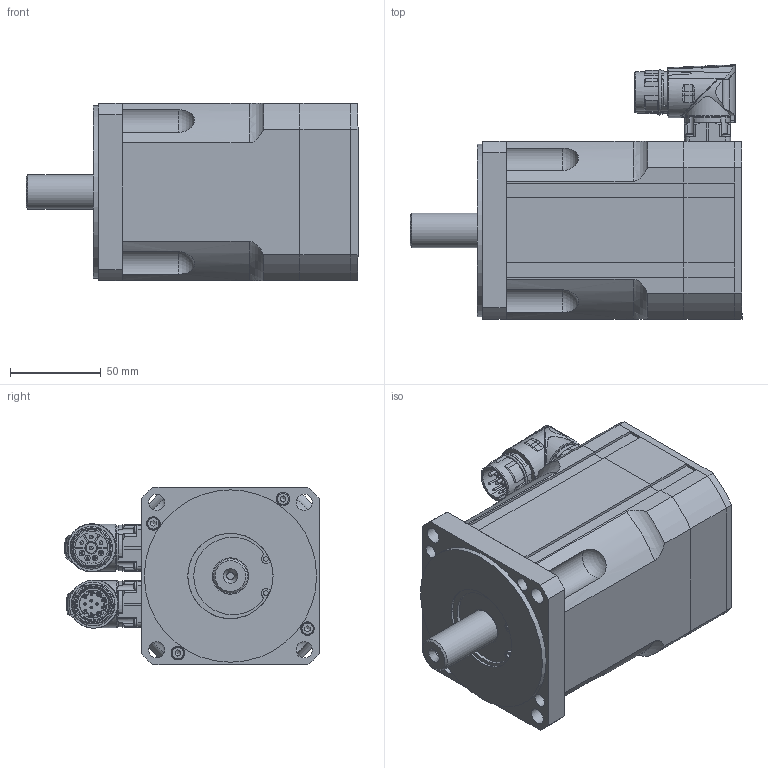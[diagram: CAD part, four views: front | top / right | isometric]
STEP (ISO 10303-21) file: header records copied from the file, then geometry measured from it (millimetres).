
FILE_DESCRIPTION(/* description */ (''),/* implementation_level */ '2;1');
FILE_NAME(/* name */ 'MR6344-Ux-Nxx-G01-A0D-M0-P0.stp',/* time_stamp */ '2019-01-24T07:32:32+01:00',/* author */ (''),/* organization */ (''),/* preprocessor_version */ 'ST-DEVELOPER v17.2',/* originating_system */ 'Autodesk Inventor 2019',/* authorisation */ '');
FILE_SCHEMA (('AUTOMOTIVE_DESIGN { 1 0 10303 214 3 1 1 }'));
Products named in the file (9): MR6344_G01_A0D_M0; MR6344_G01_A0D_M0_front; MR6344_G01_A0D_M0_P0; BED_0201_8-polig, Stift; Basis 2; Basis 11; AED_0201_12-polig, Stift; 124888; 127323
Assembly tree (8 placements, depth 3):
  MR6344_G01_A0D_M0
    MR6344_G01_A0D_M0_front
    MR6344_G01_A0D_M0_P0
    BED_0201_8-polig, Stift
      Basis 2
      Basis 11
    AED_0201_12-polig, Stift
      124888
      127323
Bounding box: 183 x 140.38 x 98.04 mm (x, y, z)
Volume: 605335.6 mm3; surface area: 167823.9 mm2
Topology: 6 solids, 6 shells, 1783 faces, 4731 edges, 2984 vertices
Faces by surface type: cylinder 788, plane 498, bspline 256, cone 130, torus 73, sphere 38
Full cylindrical faces by diameter (mm): 1 x16, 1.18 x12, 1.2 x12, 1.3 x4, 2 x4, 2.013 x2, 2.208 x8, 2.4 x8, 2.459 x4, 2.5 x10, 2.7 x4, 3 x5, 3.1 x4, 3.2 x1, 3.242 x4, 3.95 x4, 4 x4, 4.134 x1, 4.3 x4, 4.5 x2, 5 x8, 5.5 x2, 5.8 x1, 5.9 x2, 6.8 x1, 7 x4, 7.5 x4, 8 x4, 8.5 x4, 9 x4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
Entity records: 70375 total; most frequent: CARTESIAN_POINT 24570, ORIENTED_EDGE 9356, DIRECTION 9170, EDGE_CURVE 4678, AXIS2_PLACEMENT_3D 3787, VERTEX_POINT 2984, CIRCLE 2036, EDGE_LOOP 1974
